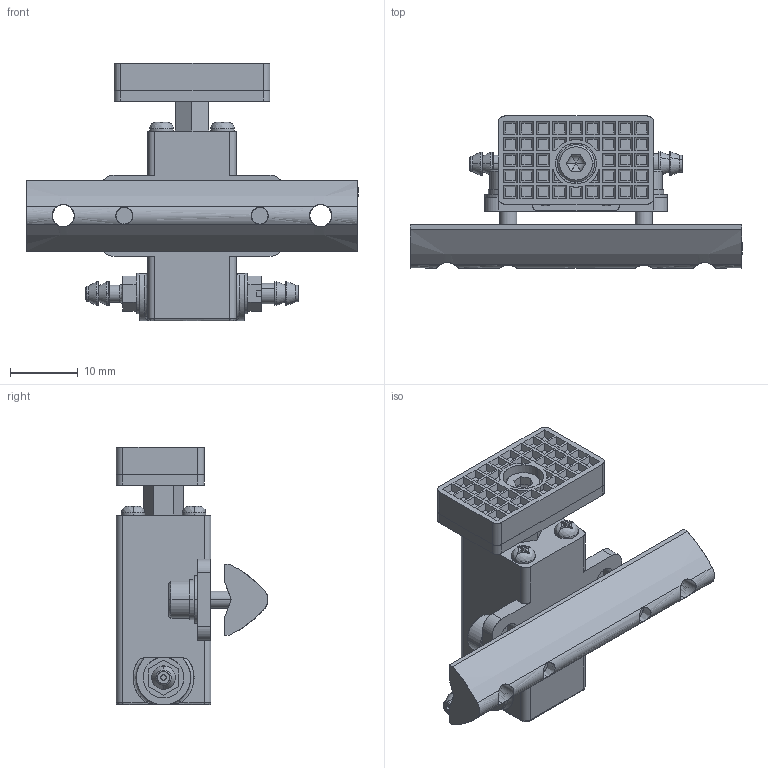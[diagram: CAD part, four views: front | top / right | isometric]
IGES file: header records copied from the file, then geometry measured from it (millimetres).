
Start section: SolidWorks IGES file using analytic representation for surfaces
Global section: file name: E:\EFCKishi\シリンダー\LGM\IGES\LGM-002.IGS; native system: SolidWorks 2006 by SolidWorks Corporation; preprocessor: SolidWorks 2006 by SolidWorks Corporation; author: CAD58; date: 080912.174019; units: millimetre
Bounding box: 49 x 22.4 x 38 mm (x, y, z)
Surface area: 6373.5 mm2 (no closed solid volume)
Topology: 0 solids, 0 shells, 577 faces, 6471 edges, 6443 vertices
Faces by surface type: bspline 431, revolution 146
